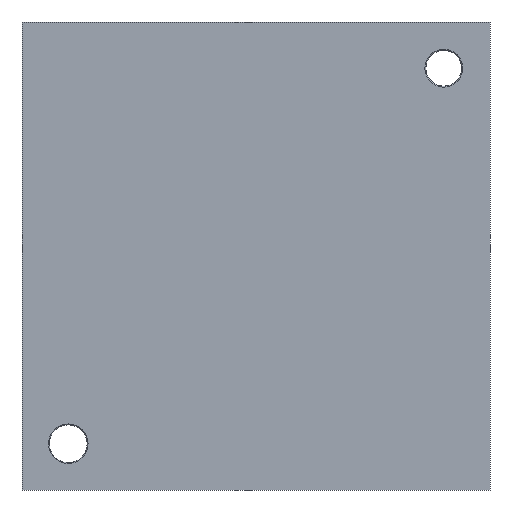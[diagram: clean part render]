
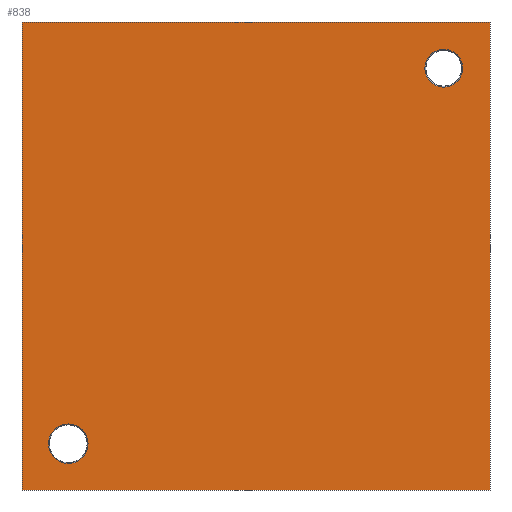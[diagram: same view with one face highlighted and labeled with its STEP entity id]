
A CAD part, front view. The second image highlights one B-rep face of the part: STEP entity #838.
In plain terms, the highlighted planar face has unit normal (0, -1, 0).
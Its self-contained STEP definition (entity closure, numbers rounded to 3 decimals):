
#45 = CARTESIAN_POINT ( 'NONE',  ( -248., 0., 248. ) ) ;
#78 = VERTEX_POINT ( 'NONE', #1914 ) ;
#80 = VECTOR ( 'NONE', #661, 1000. ) ;
#200 = VERTEX_POINT ( 'NONE', #285 ) ;
#273 = CARTESIAN_POINT ( 'NONE',  ( -199., 0., -220. ) ) ;
#277 = ORIENTED_EDGE ( 'NONE', *, *, #460, .T. ) ;
#285 = CARTESIAN_POINT ( 'NONE',  ( 248., 0., -248. ) ) ;
#293 = EDGE_CURVE ( 'NONE', #200, #1821, #1042, .T. ) ;
#311 = ORIENTED_EDGE ( 'NONE', *, *, #495, .F. ) ;
#360 = VECTOR ( 'NONE', #1532, 1000. ) ;
#403 = CARTESIAN_POINT ( 'NONE',  ( -248., 0., -248. ) ) ;
#431 = AXIS2_PLACEMENT_3D ( 'NONE', #1050, #1027, #1083 ) ;
#460 = EDGE_CURVE ( 'NONE', #1607, #1693, #1134, .T. ) ;
#495 = EDGE_CURVE ( 'NONE', #2032, #78, #1519, .T. ) ;
#515 = EDGE_CURVE ( 'NONE', #942, #1348, #2132, .T. ) ;
#540 = DIRECTION ( 'NONE',  ( 0., 0., 1. ) ) ;
#545 = DIRECTION ( 'NONE',  ( 0., 1., 0. ) ) ;
#560 = CARTESIAN_POINT ( 'NONE',  ( -248., 0., 248. ) ) ;
#581 = DIRECTION ( 'NONE',  ( 0., 1., 0. ) ) ;
#618 = DIRECTION ( 'NONE',  ( 0., 0., 1. ) ) ;
#661 = DIRECTION ( 'NONE',  ( 1., 0., 0. ) ) ;
#696 = CARTESIAN_POINT ( 'NONE',  ( 248., 0., 248. ) ) ;
#746 = EDGE_CURVE ( 'NONE', #1693, #1607, #1863, .T. ) ;
#797 = AXIS2_PLACEMENT_3D ( 'NONE', #1057, #1090, #618 ) ;
#827 = ORIENTED_EDGE ( 'NONE', *, *, #746, .T. ) ;
#838 = ADVANCED_FACE ( 'NONE', ( #1783, #1724, #1843 ), #2017, .F. ) ;
#942 = VERTEX_POINT ( 'NONE', #2398 ) ;
#1024 = DIRECTION ( 'NONE',  ( -1., 0., 0. ) ) ;
#1025 = ORIENTED_EDGE ( 'NONE', *, *, #293, .F. ) ;
#1027 = DIRECTION ( 'NONE',  ( 0., 1., 0. ) ) ;
#1031 = CARTESIAN_POINT ( 'NONE',  ( 248., 0., -248. ) ) ;
#1042 = LINE ( 'NONE', #1031, #1102 ) ;
#1050 = CARTESIAN_POINT ( 'NONE',  ( 199., 0., 199. ) ) ;
#1057 = CARTESIAN_POINT ( 'NONE',  ( 199., 0., 199. ) ) ;
#1083 = DIRECTION ( 'NONE',  ( 0., 0., 1. ) ) ;
#1090 = DIRECTION ( 'NONE',  ( 0., 1., 0. ) ) ;
#1102 = VECTOR ( 'NONE', #1024, 1000. ) ;
#1132 = DIRECTION ( 'NONE',  ( 0., 0., 1. ) ) ;
#1134 = CIRCLE ( 'NONE', #2106, 21. ) ;
#1158 = AXIS2_PLACEMENT_3D ( 'NONE', #2035, #581, #2161 ) ;
#1311 = CARTESIAN_POINT ( 'NONE',  ( -199., 0., -199. ) ) ;
#1322 = DIRECTION ( 'NONE',  ( 0., 1., 0. ) ) ;
#1325 = ORIENTED_EDGE ( 'NONE', *, *, #515, .T. ) ;
#1348 = VERTEX_POINT ( 'NONE', #1550 ) ;
#1406 = CIRCLE ( 'NONE', #797, 20. ) ;
#1413 = DIRECTION ( 'NONE',  ( 0., 0., 1. ) ) ;
#1434 = EDGE_LOOP ( 'NONE', ( #2197, #1025, #1590, #311 ) ) ;
#1464 = EDGE_CURVE ( 'NONE', #1821, #2032, #2216, .T. ) ;
#1519 = LINE ( 'NONE', #696, #80 ) ;
#1529 = CARTESIAN_POINT ( 'NONE',  ( -199., 0., -199. ) ) ;
#1532 = DIRECTION ( 'NONE',  ( 0., 0., -1. ) ) ;
#1550 = CARTESIAN_POINT ( 'NONE',  ( 199., 0., 179. ) ) ;
#1590 = ORIENTED_EDGE ( 'NONE', *, *, #1669, .F. ) ;
#1607 = VERTEX_POINT ( 'NONE', #1676 ) ;
#1669 = EDGE_CURVE ( 'NONE', #78, #200, #2104, .T. ) ;
#1676 = CARTESIAN_POINT ( 'NONE',  ( -199., 0., -178. ) ) ;
#1693 = VERTEX_POINT ( 'NONE', #273 ) ;
#1724 = FACE_BOUND ( 'NONE', #2138, .T. ) ;
#1731 = CARTESIAN_POINT ( 'NONE',  ( 248., 0., 248. ) ) ;
#1775 = VECTOR ( 'NONE', #1132, 1000. ) ;
#1783 = FACE_BOUND ( 'NONE', #2372, .T. ) ;
#1821 = VERTEX_POINT ( 'NONE', #403 ) ;
#1843 = FACE_OUTER_BOUND ( 'NONE', #1434, .T. ) ;
#1863 = CIRCLE ( 'NONE', #2324, 21. ) ;
#1914 = CARTESIAN_POINT ( 'NONE',  ( 248., 0., 248. ) ) ;
#2017 = PLANE ( 'NONE',  #1158 ) ;
#2032 = VERTEX_POINT ( 'NONE', #560 ) ;
#2035 = CARTESIAN_POINT ( 'NONE',  ( 0., 0., 0. ) ) ;
#2069 = EDGE_CURVE ( 'NONE', #1348, #942, #1406, .T. ) ;
#2104 = LINE ( 'NONE', #1731, #360 ) ;
#2106 = AXIS2_PLACEMENT_3D ( 'NONE', #1529, #545, #540 ) ;
#2132 = CIRCLE ( 'NONE', #431, 20. ) ;
#2138 = EDGE_LOOP ( 'NONE', ( #827, #277 ) ) ;
#2161 = DIRECTION ( 'NONE',  ( 0., 0., 1. ) ) ;
#2197 = ORIENTED_EDGE ( 'NONE', *, *, #1464, .F. ) ;
#2216 = LINE ( 'NONE', #45, #1775 ) ;
#2270 = ORIENTED_EDGE ( 'NONE', *, *, #2069, .T. ) ;
#2324 = AXIS2_PLACEMENT_3D ( 'NONE', #1311, #1322, #1413 ) ;
#2372 = EDGE_LOOP ( 'NONE', ( #2270, #1325 ) ) ;
#2398 = CARTESIAN_POINT ( 'NONE',  ( 199., 0., 219. ) ) ;
